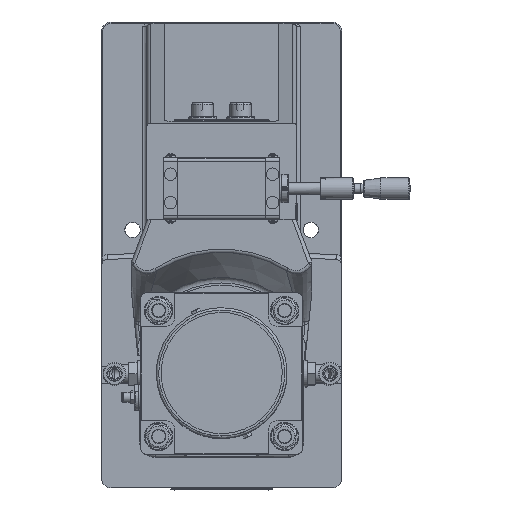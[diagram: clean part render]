
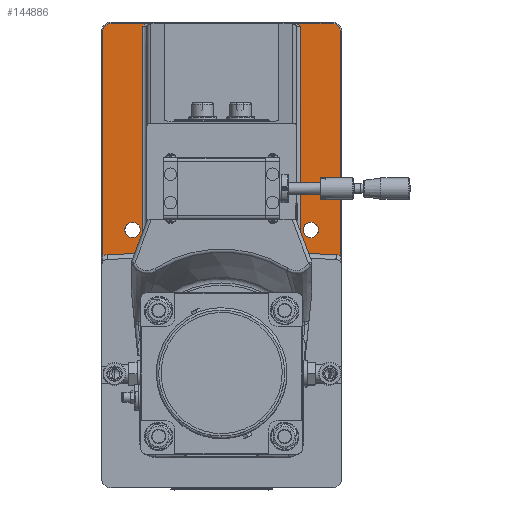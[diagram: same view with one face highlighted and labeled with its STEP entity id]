
A CAD part, top view. The second image highlights one B-rep face of the part: STEP entity #144886.
In plain terms, the highlighted planar face has unit normal (0, 0, 1).
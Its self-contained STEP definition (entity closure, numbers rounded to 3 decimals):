
#9059=LINE('',#211448,#23016);
#9190=LINE('',#212506,#23147);
#9191=LINE('',#212588,#23148);
#9193=LINE('',#212590,#23150);
#9195=LINE('',#212602,#23152);
#9212=LINE('',#212731,#23169);
#9213=LINE('',#212732,#23170);
#9214=LINE('',#212736,#23171);
#9215=LINE('',#212739,#23172);
#23016=VECTOR('',#169008,183.48);
#23147=VECTOR('',#169641,188.744);
#23148=VECTOR('',#169654,31.61);
#23150=VECTOR('',#169656,31.61);
#23152=VECTOR('',#169670,188.744);
#23169=VECTOR('',#169705,133.);
#23170=VECTOR('',#169706,183.48);
#23171=VECTOR('',#169709,96.075);
#23172=VECTOR('',#169712,96.075);
#31749=B_SPLINE_CURVE_WITH_KNOTS('',3,(#211320,#211321,#211322,#211323,
#211324,#211325,#211326,#211327),.UNSPECIFIED.,.F.,.F.,(4,2,2,4),(-0.001,
0.,0.358,0.52),.UNSPECIFIED.);
#31751=B_SPLINE_CURVE_WITH_KNOTS('',3,(#211382,#211383,#211384,#211385,
#211386,#211387,#211388,#211389,#211390,#211391),.UNSPECIFIED.,.F.,.F.,
(4,2,2,2,4),(0.,0.162,0.37,0.581,0.582),
 .UNSPECIFIED.);
#35959=FACE_BOUND('',#48080,.T.);
#35960=FACE_BOUND('',#48081,.T.);
#40074=FACE_OUTER_BOUND('',#48079,.T.);
#48079=EDGE_LOOP('',(#106026,#106027,#106028,#106029,#106030,#106031,#106032,
#106033,#106034,#106035,#106036,#106037,#106038,#106039,#106040,#106041));
#48080=EDGE_LOOP('',(#106042));
#48081=EDGE_LOOP('',(#106043));
#54336=CIRCLE('',#152623,7.);
#54340=CIRCLE('',#152629,7.);
#54343=CIRCLE('',#152635,9.);
#54348=CIRCLE('',#152642,9.);
#54349=CIRCLE('',#152643,9.);
#54350=CIRCLE('',#152644,6.5);
#54351=CIRCLE('',#152645,6.5);
#60876=VERTEX_POINT('',#211318);
#60877=VERTEX_POINT('',#211319);
#60881=VERTEX_POINT('',#211337);
#60883=VERTEX_POINT('',#211381);
#60884=VERTEX_POINT('',#211435);
#61011=VERTEX_POINT('',#212499);
#61014=VERTEX_POINT('',#212504);
#61017=VERTEX_POINT('',#212580);
#61019=VERTEX_POINT('',#212586);
#61021=VERTEX_POINT('',#212594);
#61023=VERTEX_POINT('',#212600);
#61037=VERTEX_POINT('',#212716);
#61042=VERTEX_POINT('',#212730);
#61043=VERTEX_POINT('',#212733);
#61044=VERTEX_POINT('',#212735);
#61045=VERTEX_POINT('',#212737);
#61046=VERTEX_POINT('',#212740);
#61047=VERTEX_POINT('',#212742);
#77129=EDGE_CURVE('',#60876,#60877,#31749,.T.);
#77142=EDGE_CURVE('',#60883,#60881,#31751,.F.);
#77146=EDGE_CURVE('',#60884,#60883,#9059,.T.);
#77406=EDGE_CURVE('',#61014,#61011,#9190,.T.);
#77410=EDGE_CURVE('',#61017,#61014,#54336,.T.);
#77413=EDGE_CURVE('',#61019,#60877,#9191,.T.);
#77415=EDGE_CURVE('',#60881,#61017,#9193,.T.);
#77418=EDGE_CURVE('',#61021,#61019,#54340,.T.);
#77421=EDGE_CURVE('',#61023,#61021,#9195,.T.);
#77438=EDGE_CURVE('',#61011,#61037,#54343,.T.);
#77445=EDGE_CURVE('',#61042,#60884,#9212,.T.);
#77446=EDGE_CURVE('',#60876,#61042,#9213,.T.);
#77447=EDGE_CURVE('',#61043,#61023,#54348,.T.);
#77448=EDGE_CURVE('',#61044,#61043,#9214,.T.);
#77449=EDGE_CURVE('',#61045,#61044,#54349,.T.);
#77450=EDGE_CURVE('',#61037,#61045,#9215,.T.);
#77451=EDGE_CURVE('',#61046,#61046,#54350,.T.);
#77452=EDGE_CURVE('',#61047,#61047,#54351,.T.);
#106026=ORIENTED_EDGE('',*,*,#77406,.F.);
#106027=ORIENTED_EDGE('',*,*,#77410,.F.);
#106028=ORIENTED_EDGE('',*,*,#77415,.F.);
#106029=ORIENTED_EDGE('',*,*,#77142,.F.);
#106030=ORIENTED_EDGE('',*,*,#77146,.F.);
#106031=ORIENTED_EDGE('',*,*,#77445,.F.);
#106032=ORIENTED_EDGE('',*,*,#77446,.F.);
#106033=ORIENTED_EDGE('',*,*,#77129,.T.);
#106034=ORIENTED_EDGE('',*,*,#77413,.F.);
#106035=ORIENTED_EDGE('',*,*,#77418,.F.);
#106036=ORIENTED_EDGE('',*,*,#77421,.F.);
#106037=ORIENTED_EDGE('',*,*,#77447,.F.);
#106038=ORIENTED_EDGE('',*,*,#77448,.F.);
#106039=ORIENTED_EDGE('',*,*,#77449,.F.);
#106040=ORIENTED_EDGE('',*,*,#77450,.F.);
#106041=ORIENTED_EDGE('',*,*,#77438,.F.);
#106042=ORIENTED_EDGE('',*,*,#77451,.T.);
#106043=ORIENTED_EDGE('',*,*,#77452,.T.);
#131426=PLANE('',#152641);
#144886=ADVANCED_FACE('',(#40074,#35959,#35960),#131426,.T.);
#152623=AXIS2_PLACEMENT_3D('',#212582,#169646,#169647);
#152629=AXIS2_PLACEMENT_3D('',#212596,#169662,#169663);
#152635=AXIS2_PLACEMENT_3D('',#212717,#169689,#169690);
#152641=AXIS2_PLACEMENT_3D('',#212729,#169703,#169704);
#152642=AXIS2_PLACEMENT_3D('',#212734,#169707,#169708);
#152643=AXIS2_PLACEMENT_3D('',#212738,#169710,#169711);
#152644=AXIS2_PLACEMENT_3D('',#212741,#169713,#169714);
#152645=AXIS2_PLACEMENT_3D('',#212743,#169715,#169716);
#169008=DIRECTION('',(0.,1.,0.));
#169641=DIRECTION('',(0.,-1.,0.));
#169646=DIRECTION('center_axis',(0.,0.,
-1.));
#169647=DIRECTION('ref_axis',(0.707,0.707,0.));
#169654=DIRECTION('',(1.,0.,0.));
#169656=DIRECTION('',(1.,0.,0.));
#169662=DIRECTION('center_axis',(0.,0.,
-1.));
#169663=DIRECTION('ref_axis',(-0.707,0.707,0.));
#169670=DIRECTION('',(0.,1.,0.));
#169689=DIRECTION('center_axis',(0.,0.,
1.));
#169690=DIRECTION('ref_axis',(0.721,0.693,0.));
#169703=DIRECTION('center_axis',(0.,0.,
1.));
#169704=DIRECTION('ref_axis',(1.,0.,0.));
#169705=DIRECTION('',(1.,0.,0.));
#169706=DIRECTION('',(0.,-1.,0.));
#169707=DIRECTION('center_axis',(0.,0.,
1.));
#169708=DIRECTION('ref_axis',(-0.721,0.693,0.));
#169709=DIRECTION('',(-0.999,-0.04,0.));
#169710=DIRECTION('center_axis',(0.,0.,
1.));
#169711=DIRECTION('ref_axis',(0.,1.,0.));
#169712=DIRECTION('',(-0.999,0.04,0.));
#169713=DIRECTION('center_axis',(0.,0.,
-1.));
#169714=DIRECTION('ref_axis',(1.,0.,0.));
#169715=DIRECTION('center_axis',(0.,0.,
-1.));
#169716=DIRECTION('ref_axis',(1.,0.,0.));
#211318=CARTESIAN_POINT('',(-66.5,195.98,47.));
#211319=CARTESIAN_POINT('',(-61.39,198.5,47.));
#211320=CARTESIAN_POINT('Ctrl Pts',(-66.5,195.98,47.));
#211321=CARTESIAN_POINT('Ctrl Pts',(-66.497,195.982,
47.));
#211322=CARTESIAN_POINT('Ctrl Pts',(-66.495,195.985,
47.));
#211323=CARTESIAN_POINT('Ctrl Pts',(-65.615,196.799,
47.));
#211324=CARTESIAN_POINT('Ctrl Pts',(-64.539,197.685,
47.));
#211325=CARTESIAN_POINT('Ctrl Pts',(-62.635,198.376,
47.));
#211326=CARTESIAN_POINT('Ctrl Pts',(-62.017,198.5,47.));
#211327=CARTESIAN_POINT('Ctrl Pts',(-61.39,198.5,47.));
#211337=CARTESIAN_POINT('',(61.39,198.5,47.));
#211381=CARTESIAN_POINT('',(66.5,195.98,47.));
#211382=CARTESIAN_POINT('Ctrl Pts',(61.39,198.5,47.));
#211383=CARTESIAN_POINT('Ctrl Pts',(61.931,198.5,47.));
#211384=CARTESIAN_POINT('Ctrl Pts',(62.467,198.408,47.));
#211385=CARTESIAN_POINT('Ctrl Pts',(63.645,198.035,47.));
#211386=CARTESIAN_POINT('Ctrl Pts',(64.262,197.715,47.));
#211387=CARTESIAN_POINT('Ctrl Pts',(65.431,196.93,47.));
#211388=CARTESIAN_POINT('Ctrl Pts',(65.965,196.475,47.));
#211389=CARTESIAN_POINT('Ctrl Pts',(66.495,195.985,47.));
#211390=CARTESIAN_POINT('Ctrl Pts',(66.497,195.982,47.));
#211391=CARTESIAN_POINT('Ctrl Pts',(66.5,195.98,47.));
#211435=CARTESIAN_POINT('',(66.5,12.5,47.));
#211448=CARTESIAN_POINT('',(66.5,23.,47.));
#212499=CARTESIAN_POINT('',(100.,2.756,47.));
#212504=CARTESIAN_POINT('',(100.,191.5,47.));
#212506=CARTESIAN_POINT('',(100.,101.5,47.));
#212580=CARTESIAN_POINT('',(93.,198.5,47.));
#212582=CARTESIAN_POINT('Origin',(93.,191.5,47.));
#212586=CARTESIAN_POINT('',(-93.,198.5,47.));
#212588=CARTESIAN_POINT('',(31.5,198.5,47.));
#212590=CARTESIAN_POINT('',(31.5,198.5,47.));
#212594=CARTESIAN_POINT('',(-100.,191.5,47.));
#212596=CARTESIAN_POINT('Origin',(-93.,191.5,47.));
#212600=CARTESIAN_POINT('',(-100.,2.756,47.));
#212602=CARTESIAN_POINT('',(-100.,-94.5,47.));
#212716=CARTESIAN_POINT('',(96.356,3.687,47.));
#212717=CARTESIAN_POINT('Origin',(96.,-5.306,47.));
#212729=CARTESIAN_POINT('Origin',(0.,3.5,
47.));
#212730=CARTESIAN_POINT('',(-66.5,12.5,47.));
#212731=CARTESIAN_POINT('',(-31.5,12.5,47.));
#212732=CARTESIAN_POINT('',(-66.5,101.,47.));
#212733=CARTESIAN_POINT('',(-96.356,3.687,47.));
#212734=CARTESIAN_POINT('Origin',(-96.,-5.306,47.));
#212735=CARTESIAN_POINT('',(-0.356,7.489,47.));
#212736=CARTESIAN_POINT('',(-50.658,5.497,47.));
#212737=CARTESIAN_POINT('',(0.356,7.489,47.));
#212738=CARTESIAN_POINT('Origin',(0.,-1.504,
47.));
#212739=CARTESIAN_POINT('',(0.158,7.497,47.));
#212740=CARTESIAN_POINT('',(-68.5,24.5,47.));
#212741=CARTESIAN_POINT('Origin',(-75.,24.5,47.));
#212742=CARTESIAN_POINT('',(81.5,24.5,47.));
#212743=CARTESIAN_POINT('Origin',(75.,24.5,47.));
